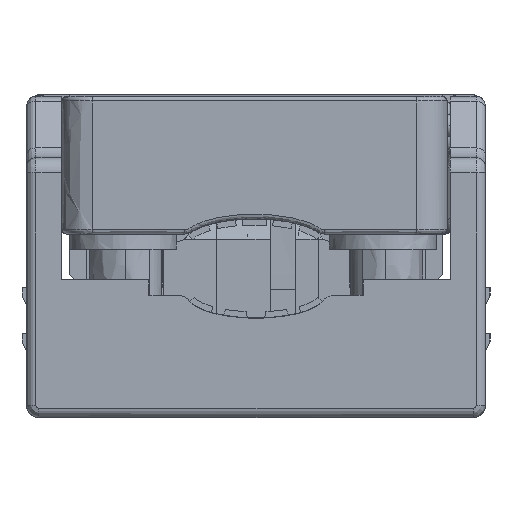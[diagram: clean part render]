
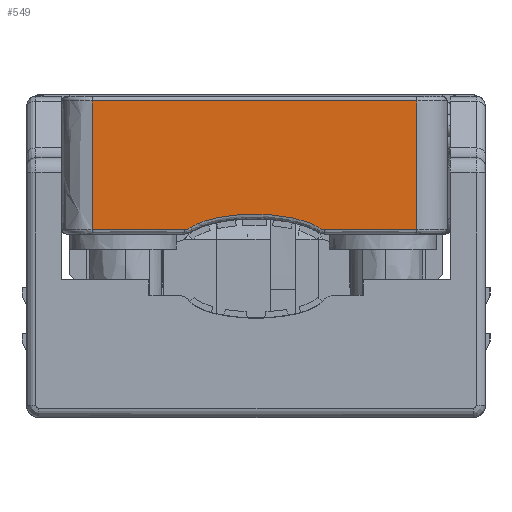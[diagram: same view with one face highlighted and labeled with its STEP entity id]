
A CAD part, left-side view. The second image highlights one B-rep face of the part: STEP entity #549.
In plain terms, the highlighted planar face has unit normal (-1, 0, 0).
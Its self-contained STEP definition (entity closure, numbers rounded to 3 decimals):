
#549=ADVANCED_FACE('',(#2001),#22699,.T.);
#2001=FACE_OUTER_BOUND('',#3487,.T.);
#3487=EDGE_LOOP('',(#6593,#6594,#6595,#6596,#6597,#6598,#6599,#6600));
#6593=ORIENTED_EDGE('',*,*,#13115,.T.);
#6594=ORIENTED_EDGE('',*,*,#13120,.T.);
#6595=ORIENTED_EDGE('',*,*,#13119,.T.);
#6596=ORIENTED_EDGE('',*,*,#13132,.T.);
#6597=ORIENTED_EDGE('',*,*,#13118,.T.);
#6598=ORIENTED_EDGE('',*,*,#13111,.F.);
#6599=ORIENTED_EDGE('',*,*,#13117,.T.);
#6600=ORIENTED_EDGE('',*,*,#13116,.T.);
#13111=EDGE_CURVE('',#20289,#20290,#16148,.T.);
#13115=EDGE_CURVE('',#20291,#20292,#17435,.T.);
#13116=EDGE_CURVE('',#20293,#20291,#17436,.T.);
#13117=EDGE_CURVE('',#20289,#20293,#17437,.T.);
#13118=EDGE_CURVE('',#20294,#20290,#17438,.T.);
#13119=EDGE_CURVE('',#20296,#20295,#17439,.T.);
#13120=EDGE_CURVE('',#20292,#20296,#17440,.T.);
#13132=EDGE_CURVE('',#20295,#20294,#16161,.T.);
#16148=(
BOUNDED_CURVE()
B_SPLINE_CURVE(2,(#38604,#38605,#38606),.UNSPECIFIED.,.F.,.F.)
B_SPLINE_CURVE_WITH_KNOTS((3,3),(-0.413,0.),.UNSPECIFIED.)
CURVE()
GEOMETRIC_REPRESENTATION_ITEM()
RATIONAL_B_SPLINE_CURVE((1.,0.957,1.))
REPRESENTATION_ITEM('')
);
#16161=(
BOUNDED_CURVE()
B_SPLINE_CURVE(2,(#38688,#38689,#38690),.UNSPECIFIED.,.F.,.F.)
B_SPLINE_CURVE_WITH_KNOTS((3,3),(0.,0.413),.UNSPECIFIED.)
CURVE()
GEOMETRIC_REPRESENTATION_ITEM()
RATIONAL_B_SPLINE_CURVE((1.,0.957,1.))
REPRESENTATION_ITEM('')
);
#17435=B_SPLINE_CURVE_WITH_KNOTS('',1,(#38616,#38617),.UNSPECIFIED.,.F.,
 .F.,(2,2),(-21.2,0.),.UNSPECIFIED.);
#17436=B_SPLINE_CURVE_WITH_KNOTS('',1,(#38618,#38619),.UNSPECIFIED.,.F.,
 .F.,(2,2),(-8.4,0.),.UNSPECIFIED.);
#17437=B_SPLINE_CURVE_WITH_KNOTS('',1,(#38620,#38621),.UNSPECIFIED.,.F.,
 .F.,(2,2),(-6.016,0.),.UNSPECIFIED.);
#17438=B_SPLINE_CURVE_WITH_KNOTS('',3,(#38622,#38623,#38624,#38625,#38626,
#38627,#38628,#38629,#38630,#38631,#38632,#38633,#38634,#38635,#38636,#38637,
#38638,#38639,#38640,#38641,#38642,#38643,#38644,#38645,#38646,#38647,#38648,
#38649,#38650,#38651,#38652),.UNSPECIFIED.,.F.,.F.,(4,1,1,1,1,1,1,1,1,1,
1,1,1,1,1,1,1,1,1,1,1,1,1,1,1,1,1,1,4),(-8.676,-8.366,
-8.056,-7.746,-7.436,-7.126,
-6.816,-6.507,-6.197,-5.887,
-5.577,-5.267,-4.957,-4.648,
-4.338,-4.028,-3.718,-3.408,
-3.098,-2.789,-2.479,-2.169,
-1.859,-1.549,-1.239,-0.93,
-0.62,-0.31,0.),.UNSPECIFIED.);
#17439=B_SPLINE_CURVE_WITH_KNOTS('',1,(#38653,#38654),.UNSPECIFIED.,.F.,
 .F.,(2,2),(-6.016,0.),.UNSPECIFIED.);
#17440=B_SPLINE_CURVE_WITH_KNOTS('',1,(#38655,#38656),.UNSPECIFIED.,.F.,
 .F.,(2,2),(-8.4,0.),.UNSPECIFIED.);
#20289=VERTEX_POINT('',#37939);
#20290=VERTEX_POINT('',#37940);
#20291=VERTEX_POINT('',#37941);
#20292=VERTEX_POINT('',#37942);
#20293=VERTEX_POINT('',#37943);
#20294=VERTEX_POINT('',#37944);
#20295=VERTEX_POINT('',#37945);
#20296=VERTEX_POINT('',#37946);
#22699=PLANE('',#23716);
#23716=AXIS2_PLACEMENT_3D('',#33435,#24658,$);
#24658=DIRECTION('',(-1.,0.,0.));
#33435=CARTESIAN_POINT('',(1402.592,12.875,1.125));
#37939=CARTESIAN_POINT('',(1402.592,-4.484,2.02));
#37940=CARTESIAN_POINT('',(1402.592,-4.095,2.138));
#37941=CARTESIAN_POINT('',(1402.592,-10.5,10.42));
#37942=CARTESIAN_POINT('',(1402.592,10.7,10.42));
#37943=CARTESIAN_POINT('',(1402.592,-10.5,2.02));
#37944=CARTESIAN_POINT('',(1402.592,4.295,2.138));
#37945=CARTESIAN_POINT('',(1402.592,4.684,2.02));
#37946=CARTESIAN_POINT('',(1402.592,10.7,2.02));
#38604=CARTESIAN_POINT('',(1402.592,-4.484,2.02));
#38605=CARTESIAN_POINT('',(1402.592,-4.271,2.02));
#38606=CARTESIAN_POINT('',(1402.592,-4.095,2.138));
#38616=CARTESIAN_POINT('',(1402.592,-10.5,10.42));
#38617=CARTESIAN_POINT('',(1402.592,10.7,10.42));
#38618=CARTESIAN_POINT('',(1402.592,-10.5,2.02));
#38619=CARTESIAN_POINT('',(1402.592,-10.5,10.42));
#38620=CARTESIAN_POINT('',(1402.592,-4.484,2.02));
#38621=CARTESIAN_POINT('',(1402.592,-10.5,2.02));
#38622=CARTESIAN_POINT('',(1402.592,4.295,2.138));
#38623=CARTESIAN_POINT('',(1402.592,4.193,2.206));
#38624=CARTESIAN_POINT('',(1402.592,3.992,2.319));
#38625=CARTESIAN_POINT('',(1402.592,3.713,2.444));
#38626=CARTESIAN_POINT('',(1402.592,3.469,2.536));
#38627=CARTESIAN_POINT('',(1402.592,3.218,2.618));
#38628=CARTESIAN_POINT('',(1402.592,2.955,2.691));
#38629=CARTESIAN_POINT('',(1402.592,2.692,2.755));
#38630=CARTESIAN_POINT('',(1402.592,2.432,2.81));
#38631=CARTESIAN_POINT('',(1402.592,2.173,2.857));
#38632=CARTESIAN_POINT('',(1402.592,1.906,2.898));
#38633=CARTESIAN_POINT('',(1402.592,1.618,2.935));
#38634=CARTESIAN_POINT('',(1402.592,1.297,2.968));
#38635=CARTESIAN_POINT('',(1402.592,0.936,2.996));
#38636=CARTESIAN_POINT('',(1402.592,0.542,3.015));
#38637=CARTESIAN_POINT('',(1402.592,0.128,3.022));
#38638=CARTESIAN_POINT('',(1402.592,-0.295,3.016));
#38639=CARTESIAN_POINT('',(1402.592,-0.71,2.998));
#38640=CARTESIAN_POINT('',(1402.592,-1.095,2.969));
#38641=CARTESIAN_POINT('',(1402.592,-1.433,2.934));
#38642=CARTESIAN_POINT('',(1402.592,-1.731,2.894));
#38643=CARTESIAN_POINT('',(1402.592,-2.003,2.852));
#38644=CARTESIAN_POINT('',(1402.592,-2.263,2.804));
#38645=CARTESIAN_POINT('',(1402.592,-2.522,2.748));
#38646=CARTESIAN_POINT('',(1402.592,-2.784,2.684));
#38647=CARTESIAN_POINT('',(1402.592,-3.045,2.609));
#38648=CARTESIAN_POINT('',(1402.592,-3.295,2.526));
#38649=CARTESIAN_POINT('',(1402.592,-3.536,2.434));
#38650=CARTESIAN_POINT('',(1402.592,-3.805,2.312));
#38651=CARTESIAN_POINT('',(1402.592,-3.997,2.203));
#38652=CARTESIAN_POINT('',(1402.592,-4.095,2.138));
#38653=CARTESIAN_POINT('',(1402.592,10.7,2.02));
#38654=CARTESIAN_POINT('',(1402.592,4.684,2.02));
#38655=CARTESIAN_POINT('',(1402.592,10.7,10.42));
#38656=CARTESIAN_POINT('',(1402.592,10.7,2.02));
#38688=CARTESIAN_POINT('',(1402.592,4.684,2.02));
#38689=CARTESIAN_POINT('',(1402.592,4.471,2.02));
#38690=CARTESIAN_POINT('',(1402.592,4.295,2.138));
